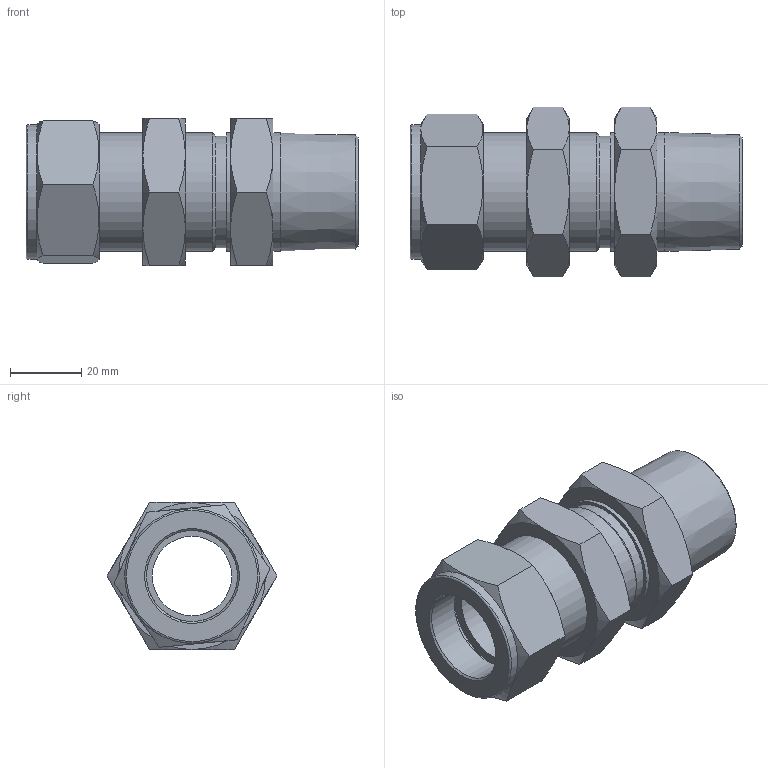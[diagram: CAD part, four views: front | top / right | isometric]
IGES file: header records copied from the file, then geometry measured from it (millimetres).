
Global section: file name: No Iges File Name specified; native system: Autodesk Inventor 2012; preprocessor: AutoDesk Inventor Iges Exporter R2012; author: 硅己绕,,1; organization: 1; date: 20150603.092653; units: millimetre
Bounding box: 93.26 x 47.69 x 41.3 mm (x, y, z)
Volume: 60206.7 mm3; surface area: 26612.3 mm2
Topology: 3 solids, 3 shells, 74 faces, 152 edges, 89 vertices
Faces by surface type: cone 30, plane 29, revolution 8, cylinder 6, torus 1
Full cylindrical faces by diameter (mm): 31.45 x2, 33.34 x1, 33.4 x2, 37.8 x1
